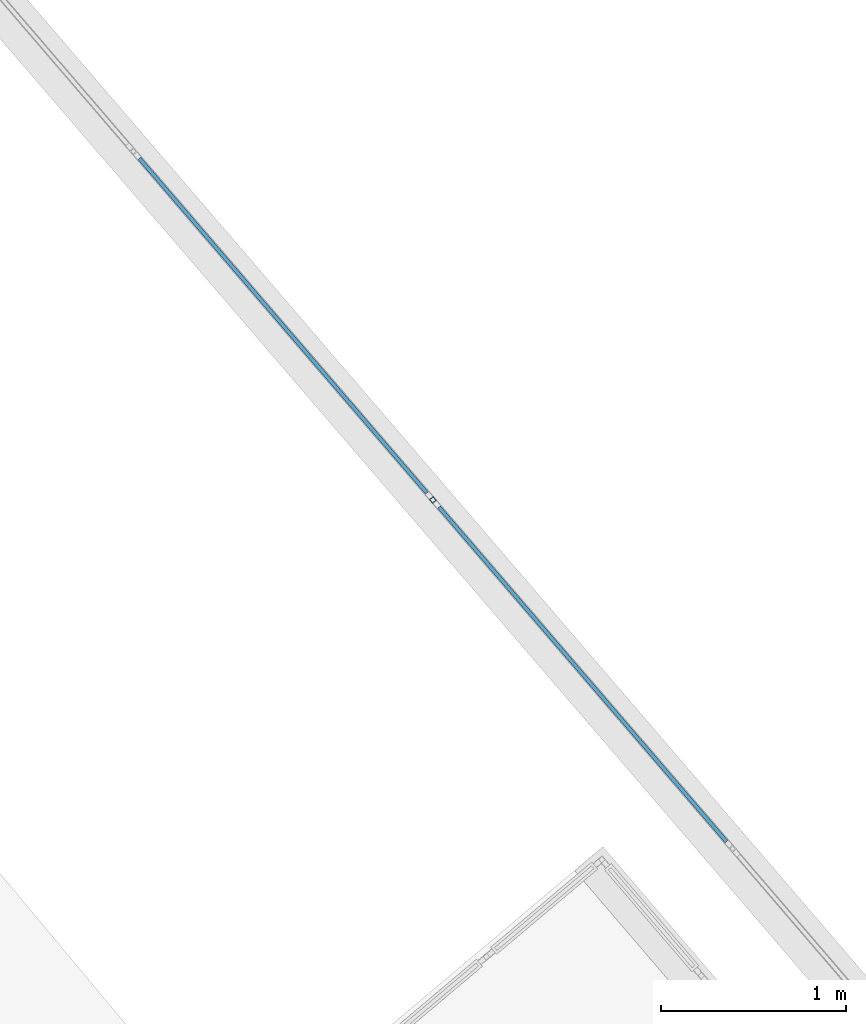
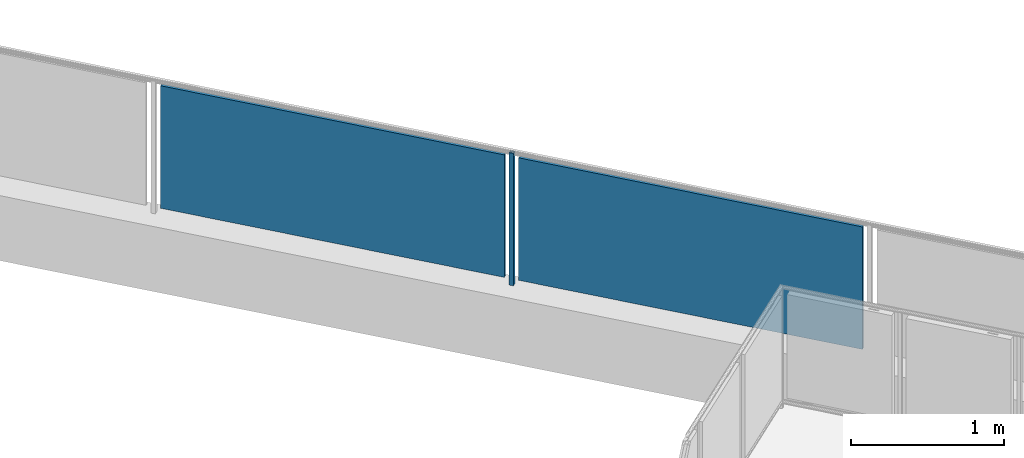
# One storey, part 52 of 75: 3 building element parts, 1 element without a shape of its own.
"""IFC4 building model written with IfcOpenShell, lengths in metres."""

from ifc_helpers import new_model, entity, si_unit, converted_unit, derived_unit, direction, frame, origin_with_axes, place, context, subcontext, project, spatial, polygons, material, type_object, element, aggregate, save


model = new_model("IFC4")

# Units and contexts
model_context = context("Model", 3, precision=1e-05, world=origin_with_axes(), true_north=direction((0.0, 1.0)))
body_context = subcontext(model_context, "Body", "Model", "MODEL_VIEW")
ifc_project = project(units=[si_unit("LENGTHUNIT", "METRE"), si_unit("AREAUNIT", "SQUARE_METRE"), si_unit("VOLUMEUNIT", "CUBIC_METRE"), converted_unit("PLANEANGLEUNIT", "DEGREE", entity("IfcPlaneAngleMeasure", 0.0174532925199), si_unit("PLANEANGLEUNIT", "RADIAN"), dimensions=[0, 0, 0, 0, 0, 0, 0]), converted_unit("TIMEUNIT", "Year", entity("IfcTimeMeasure", 31556926.0), si_unit("TIMEUNIT", "SECOND"), dimensions=[0, 0, 1, 0, 0, 0, 0]), si_unit("MASSUNIT", "GRAM", prefix="KILO"), si_unit("THERMODYNAMICTEMPERATUREUNIT", "DEGREE_CELSIUS"), si_unit("LUMINOUSINTENSITYUNIT", "LUMEN"), si_unit("ENERGYUNIT", "JOULE", prefix="MEGA"), derived_unit("THERMALCONDUCTANCEUNIT", [(si_unit("POWERUNIT", "WATT"), 1), (si_unit("LENGTHUNIT", "METRE"), -1), (si_unit("THERMODYNAMICTEMPERATUREUNIT", "KELVIN"), -1)]), derived_unit("SPECIFICHEATCAPACITYUNIT", [(si_unit("ENERGYUNIT", "JOULE"), 1), (si_unit("MASSUNIT", "GRAM", prefix="KILO"), -1), (si_unit("THERMODYNAMICTEMPERATUREUNIT", "KELVIN"), -1)]), derived_unit("MASSDENSITYUNIT", [(si_unit("MASSUNIT", "GRAM", prefix="KILO"), 1), (si_unit("VOLUMEUNIT", "CUBIC_METRE"), -1)])], contexts=[model_context])

# Site, building, storey
site_placement = place(None, frame((-0.00153261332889, -0.00661245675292, 0.0), z_axis=(0.0, 0.0, 1.0), x_axis=(1.0, 0.0, 0.0)))
site = spatial("IfcSite", under=ifc_project, at=site_placement, Name="Gelände", CompositionType="ELEMENT")
building_placement = place(site_placement, origin_with_axes())
building = spatial("IfcBuilding", under=site, at=building_placement, Name="Gebäude", CompositionType="ELEMENT")
storey_placement = place(building_placement, frame((0.0, 0.0, -0.22), z_axis=(0.0, 0.0, 1.0), x_axis=(1.0, 0.0, 0.0)))
storey = spatial("IfcBuildingStorey", under=building, at=storey_placement, Name="EG", CompositionType="ELEMENT", Elevation=-0.22)

# Railing, building element parts
railing_type = type_object("IfcRailingType", Name="Geländerart", PredefinedType="NOTDEFINED")
railing_placement = place(storey_placement, frame((-12.1608341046, 23.557810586, 0.523948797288), z_axis=(0.0, 0.0, 1.0), x_axis=(1.0, 0.0, 0.0)))
railing = element("IfcRailing", 1, at=railing_placement, inside=storey, type_object=railing_type, Name="Geländer - 001", PredefinedType="NOTDEFINED")
ifc_material_1 = material(Name="Zaun")
building_element_part_1_placement = place(railing_placement, origin_with_axes())
building_element_part_1 = element("IfcBuildingElementPart", 2, at=building_element_part_1_placement, material=ifc_material_1, Name="Zaun", PredefinedType="NOTDEFINED", context=body_context, shape_type="Tessellation", body=[
    polygons([(27.207719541, 2.05287103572, 0.05), (28.7635417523, 0.242168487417, 0.05), (28.7635417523, 0.242168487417, 1.03), (27.207719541, 2.05287103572, 1.03), (28.7787111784, 0.255202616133, 0.05), (27.2228889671, 2.06590516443, 0.05), (28.7787111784, 0.255202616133, 1.03), (27.2228889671, 2.06590516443, 1.03)], [[[1, 2, 3, 4]], [[5, 2, 1, 6]], [[7, 3, 2, 5]], [[4, 3, 7, 8]], [[1, 4, 8, 6]], [[7, 5, 6, 8]]], closed=True),
])
ifc_material_2 = material(Name="Aluminium")
building_element_part_2_placement = place(railing_placement, origin_with_axes())
building_element_part_2 = element("IfcBuildingElementPart", 3, at=building_element_part_2_placement, material=ifc_material_2, Name="Aluminium", PredefinedType="NOTDEFINED", context=body_context, shape_type="Tessellation", body=[
    polygons([(27.1843204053, 2.11846433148, 0.0), (27.1615662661, 2.09891313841, 0.0), (27.1615662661, 2.09891313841, 1.06), (27.1843204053, 2.11846433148, 1.06), (27.2038715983, 2.09571019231, 0.0), (27.1811174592, 2.07615899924, 0.0), (27.1837865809, 2.11141344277, 0.0), (27.1686171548, 2.09837931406, 0.0), (27.1816512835, 2.08320988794, 0.0), (27.1968207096, 2.09624401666, 0.0), (27.1811174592, 2.07615899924, 1.06), (27.2038715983, 2.09571019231, 1.06), (27.1837865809, 2.11141344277, 1.06), (27.1968207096, 2.09624401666, 1.06), (27.1816512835, 2.08320988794, 1.06), (27.1686171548, 2.09837931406, 1.06)], [[[1, 2, 3, 4]], [[1, 5, 6, 2], [7, 8, 9, 10]], [[2, 6, 11, 3]], [[4, 3, 11, 12], [13, 14, 15, 16]], [[5, 1, 4, 12]], [[6, 5, 12, 11]], [[8, 7, 13, 16]], [[9, 8, 16, 15]], [[10, 9, 15, 14]], [[7, 10, 14, 13]]], closed=True),
])
building_element_part_3_placement = place(railing_placement, origin_with_axes())
building_element_part_3 = element("IfcBuildingElementPart", 4, at=building_element_part_3_placement, material=ifc_material_1, Name="Zaun", PredefinedType="NOTDEFINED", context=body_context, shape_type="Tessellation", body=[
    polygons([(25.586726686, 3.93942071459, 0.05), (27.1425488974, 2.12871816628, 0.05), (27.1425488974, 2.12871816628, 1.03), (25.586726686, 3.93942071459, 1.03), (27.1577183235, 2.141752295, 0.05), (25.6018961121, 3.9524548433, 0.05), (27.1577183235, 2.141752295, 1.03), (25.6018961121, 3.9524548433, 1.03)], [[[1, 2, 3, 4]], [[5, 2, 1, 6]], [[7, 3, 2, 5]], [[4, 3, 7, 8]], [[1, 4, 8, 6]], [[7, 5, 6, 8]]], closed=True),
])
aggregate(railing, [building_element_part_1, building_element_part_2, building_element_part_3])

save(model, "model.ifc")
